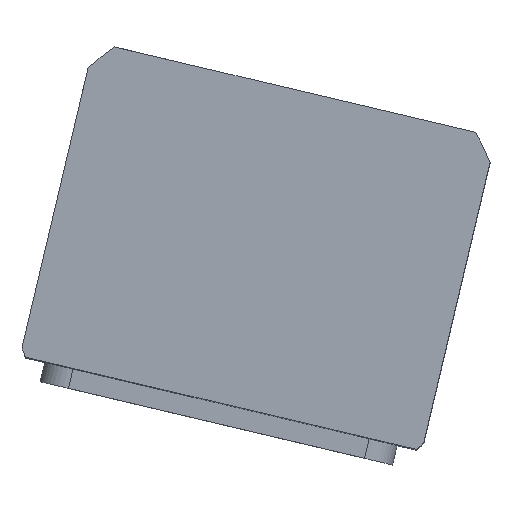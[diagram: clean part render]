
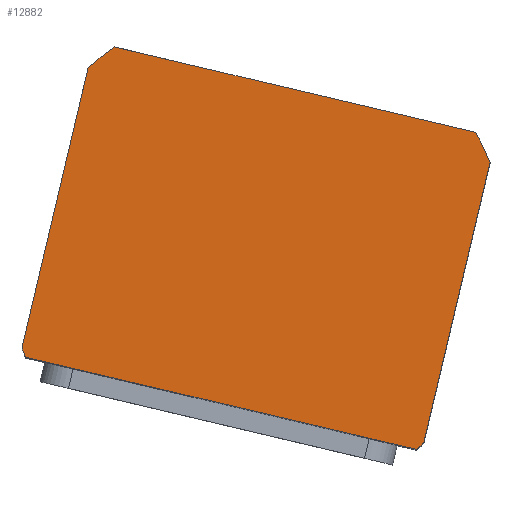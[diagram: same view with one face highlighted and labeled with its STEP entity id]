
A CAD part, top view. The second image highlights one B-rep face of the part: STEP entity #12882.
In plain terms, the highlighted planar face has unit normal (0, 0, 1) as drawn and (0, 0, -1) by its records, which use the part's own axes.
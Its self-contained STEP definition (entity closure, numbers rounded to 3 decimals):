
#207 = DIRECTION ( 'NONE',  ( 1., 0., 0. ) ) ;
#369 = CARTESIAN_POINT ( 'NONE',  ( -51.198, -44.5, 0. ) ) ;
#1505 = CARTESIAN_POINT ( 'NONE',  ( 0., 2.5, 0. ) ) ;
#1674 = VERTEX_POINT ( 'NONE', #369 ) ;
#1745 = CARTESIAN_POINT ( 'NONE',  ( -57., 42.265, 0. ) ) ;
#1970 = AXIS2_PLACEMENT_3D ( 'NONE', #13574, #5093, #14978 ) ;
#2039 = EDGE_LOOP ( 'NONE', ( #6862, #4259, #7120, #5790, #7967, #8451, #6410, #8666 ) ) ;
#2334 = CIRCLE ( 'NONE', #1970, 69.5 ) ;
#2928 = DIRECTION ( 'NONE',  ( 1., 0., 0. ) ) ;
#3012 = VERTEX_POINT ( 'NONE', #13354 ) ;
#3079 = CARTESIAN_POINT ( 'NONE',  ( 0., 0., 0. ) ) ;
#3182 = EDGE_CURVE ( 'NONE', #12347, #6320, #2334, .T. ) ;
#3721 = AXIS2_PLACEMENT_3D ( 'NONE', #3079, #8658, #207 ) ;
#4259 = ORIENTED_EDGE ( 'NONE', *, *, #10309, .F. ) ;
#5093 = DIRECTION ( 'NONE',  ( 0., 0., 1. ) ) ;
#5790 = ORIENTED_EDGE ( 'NONE', *, *, #10645, .F. ) ;
#5870 = DIRECTION ( 'NONE',  ( 0., 0., 1. ) ) ;
#6320 = VERTEX_POINT ( 'NONE', #14045 ) ;
#6410 = ORIENTED_EDGE ( 'NONE', *, *, #15335, .F. ) ;
#6642 = AXIS2_PLACEMENT_3D ( 'NONE', #6909, #16791, #8344 ) ;
#6790 = CIRCLE ( 'NONE', #16265, 69.5 ) ;
#6862 = ORIENTED_EDGE ( 'NONE', *, *, #3182, .F. ) ;
#6909 = CARTESIAN_POINT ( 'NONE',  ( 0., 2.5, 0. ) ) ;
#7070 = FACE_OUTER_BOUND ( 'NONE', #2039, .T. ) ;
#7120 = ORIENTED_EDGE ( 'NONE', *, *, #8494, .F. ) ;
#7237 = PLANE ( 'NONE',  #3721 ) ;
#7364 = DIRECTION ( 'NONE',  ( 0., 1., 0. ) ) ;
#7550 = EDGE_CURVE ( 'NONE', #6320, #13022, #12238, .T. ) ;
#7967 = ORIENTED_EDGE ( 'NONE', *, *, #10970, .F. ) ;
#8014 = VECTOR ( 'NONE', #13268, 1000. ) ;
#8245 = CIRCLE ( 'NONE', #8688, 69.5 ) ;
#8344 = DIRECTION ( 'NONE',  ( 1., 0., 0. ) ) ;
#8451 = ORIENTED_EDGE ( 'NONE', *, *, #10160, .F. ) ;
#8494 = EDGE_CURVE ( 'NONE', #18010, #13556, #8245, .T. ) ;
#8658 = DIRECTION ( 'NONE',  ( 0., 0., 1. ) ) ;
#8666 = ORIENTED_EDGE ( 'NONE', *, *, #7550, .F. ) ;
#8688 = AXIS2_PLACEMENT_3D ( 'NONE', #14352, #5870, #15750 ) ;
#8697 = LINE ( 'NONE', #14189, #15758 ) ;
#9039 = CARTESIAN_POINT ( 'NONE',  ( -57., 44.5, 0. ) ) ;
#9330 = VECTOR ( 'NONE', #10590, 1000. ) ;
#10160 = EDGE_CURVE ( 'NONE', #15519, #3012, #8697, .T. ) ;
#10309 = EDGE_CURVE ( 'NONE', #13556, #12347, #11591, .T. ) ;
#10590 = DIRECTION ( 'NONE',  ( 1., 0., 0. ) ) ;
#10645 = EDGE_CURVE ( 'NONE', #1674, #18010, #13989, .T. ) ;
#10970 = EDGE_CURVE ( 'NONE', #3012, #1674, #12688, .T. ) ;
#11126 = VECTOR ( 'NONE', #7364, 1000. ) ;
#11385 = DIRECTION ( 'NONE',  ( 0., 0., 1. ) ) ;
#11591 = LINE ( 'NONE', #17251, #11126 ) ;
#12238 = LINE ( 'NONE', #9039, #8014 ) ;
#12347 = VERTEX_POINT ( 'NONE', #13723 ) ;
#12688 = CIRCLE ( 'NONE', #6642, 69.5 ) ;
#12882 = ADVANCED_FACE ( 'NONE', ( #7070 ), #7237, .F. ) ;
#13022 = VERTEX_POINT ( 'NONE', #17283 ) ;
#13268 = DIRECTION ( 'NONE',  ( -1., 0., 0. ) ) ;
#13354 = CARTESIAN_POINT ( 'NONE',  ( -57., -37.265, 0. ) ) ;
#13556 = VERTEX_POINT ( 'NONE', #17423 ) ;
#13574 = CARTESIAN_POINT ( 'NONE',  ( 0., 2.5, 0. ) ) ;
#13723 = CARTESIAN_POINT ( 'NONE',  ( 57., 42.265, 0. ) ) ;
#13989 = LINE ( 'NONE', #16182, #9330 ) ;
#14045 = CARTESIAN_POINT ( 'NONE',  ( 55.374, 44.5, 0. ) ) ;
#14189 = CARTESIAN_POINT ( 'NONE',  ( -57., 44.5, 0. ) ) ;
#14352 = CARTESIAN_POINT ( 'NONE',  ( 0., 2.5, 0. ) ) ;
#14978 = DIRECTION ( 'NONE',  ( 1., 0., 0. ) ) ;
#15335 = EDGE_CURVE ( 'NONE', #13022, #15519, #6790, .T. ) ;
#15519 = VERTEX_POINT ( 'NONE', #1745 ) ;
#15593 = DIRECTION ( 'NONE',  ( 0., -1., 0. ) ) ;
#15750 = DIRECTION ( 'NONE',  ( 1., 0., 0. ) ) ;
#15758 = VECTOR ( 'NONE', #15593, 1000. ) ;
#16182 = CARTESIAN_POINT ( 'NONE',  ( -57., -44.5, 0. ) ) ;
#16265 = AXIS2_PLACEMENT_3D ( 'NONE', #1505, #11385, #2928 ) ;
#16791 = DIRECTION ( 'NONE',  ( 0., 0., 1. ) ) ;
#17251 = CARTESIAN_POINT ( 'NONE',  ( 57., 44.5, 0. ) ) ;
#17283 = CARTESIAN_POINT ( 'NONE',  ( -55.374, 44.5, 0. ) ) ;
#17423 = CARTESIAN_POINT ( 'NONE',  ( 57., -37.265, 0. ) ) ;
#17552 = CARTESIAN_POINT ( 'NONE',  ( 51.198, -44.5, 0. ) ) ;
#18010 = VERTEX_POINT ( 'NONE', #17552 ) ;
